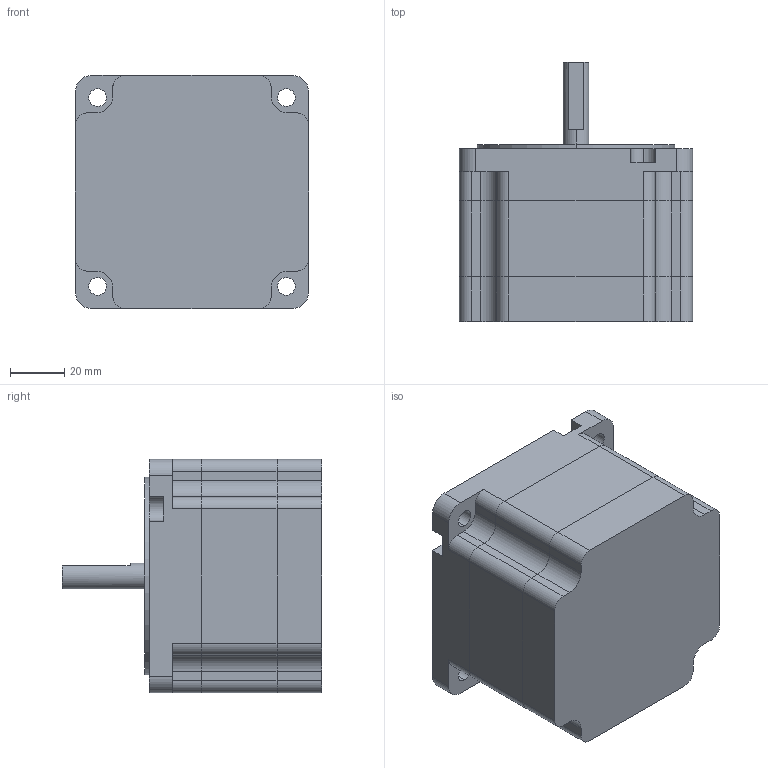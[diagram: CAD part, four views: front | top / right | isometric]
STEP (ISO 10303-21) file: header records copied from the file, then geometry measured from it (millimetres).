
FILE_DESCRIPTION (( 'STEP AP214' ), '1' );
FILE_NAME ('86GP63S803D0932-001.STEP', '2019-10-15T04:12:57', ( 'wimxt.com' ), ( 'wimxt.com' ), 'SwSTEP 2.0', 'SolidWorks 2014', '' );
FILE_SCHEMA (( 'AUTOMOTIVE_DESIGN' ));
Length unit declared in the file: millimetre
Products named in the file (4): 86A3菁釱; 86A3傷裔; 86A3隅赽; 86GP63S803D0932-001
Assembly tree (3 placements, depth 2):
  86GP63S803D0932-001
    86A3隅赽
    86A3傷裔
    86A3菁釱
Bounding box: 86 x 95.7 x 86 mm (x, y, z)
Volume: 253625.2 mm3; surface area: 68658.5 mm2
Topology: 3 solids, 3 shells, 149 faces, 413 edges, 275 vertices
Faces by surface type: cylinder 82, plane 65, cone 2
Entity records: 5034 total; most frequent: DIRECTION 888, CARTESIAN_POINT 849, ORIENTED_EDGE 826, EDGE_CURVE 413, AXIS2_PLACEMENT_3D 322, VERTEX_POINT 275, VECTOR 244, LINE 244
